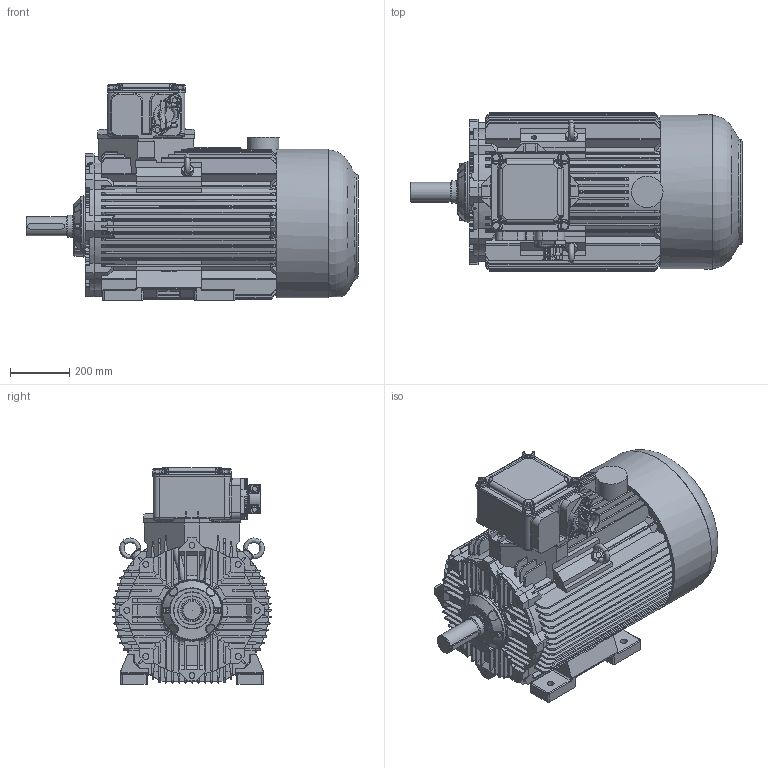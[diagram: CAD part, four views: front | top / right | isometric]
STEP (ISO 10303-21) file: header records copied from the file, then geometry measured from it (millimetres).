
FILE_DESCRIPTION(/* description */ ('Unknown'),/* implementation_level */ '2;1');
FILE_NAME(/* name */ 'EcSTe250M4-8 IE2-3',/* time_stamp */ '2021-12-13T10:38:40+01:00',/* author */ ('Unknown'),/* organization */ ('Unknown'),/* preprocessor_version */ 'ST-DEVELOPER v16.7',/* originating_system */ 'DEX',/* authorisation */ $);
FILE_SCHEMA (('AP203_CONFIGURATION_CONTROLLED_3D_DESIGN_OF_MECHANICAL_PARTS_AND_ASSEMBLIES_MIM_LF { 1 0 10303 203 3 1 4 }','AUTOMOTIVE_DESIGN {1 0 10303 214 3 1 1}'));
Length unit declared in the file: millimetre
Products named in the file (1): EcSTe250M4-8 IE2-3
Bounding box: 1120 x 534.95 x 732 mm (x, y, z)
Volume: 184817067.6 mm3; surface area: 5298264.2 mm2
Topology: 2 solids, 30 shells, 2463 faces, 6486 edges, 3987 vertices
Faces by surface type: plane 1008, cylinder 793, torus 227, bspline 204, cone 158, sphere 73
Full cylindrical faces by diameter (mm): 6.647 x2, 8.5 x2, 8.917 x1, 10 x6, 10.106 x15, 11 x2, 14.63 x3, 16.4 x2, 17.294 x5, 18.376 x1, 20 x8, 24 x4, 36.412 x1, 36.625 x1, 37.318 x1, 40 x1, 52 x1, 65 x1, 71.5 x1, 72 x1, 106 x1, 124.4 x1, 124.996 x1, 202 x1, 207.997 x1
Entity records: 98652 total; most frequent: CARTESIAN_POINT 23090, ORIENTED_EDGE 12342, DIRECTION 12033, EDGE_CURVE 6171, AXIS2_PLACEMENT_3D 4436, VERTEX_POINT 3908, LINE 3161, VECTOR 3161
